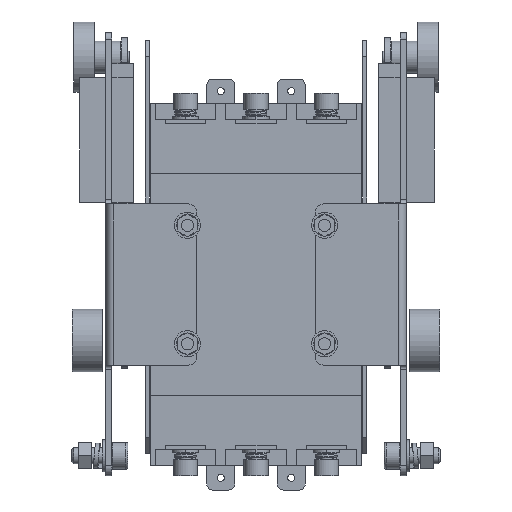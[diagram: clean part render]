
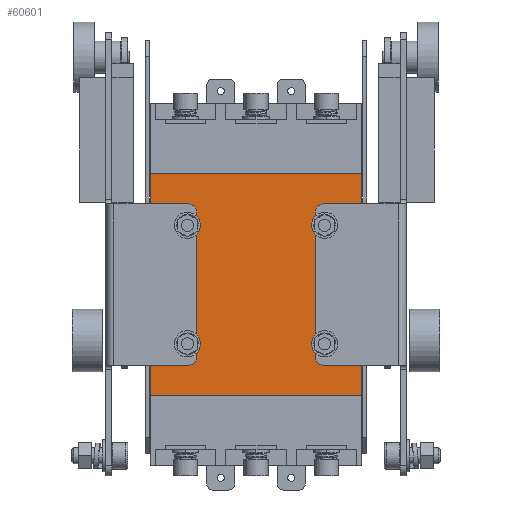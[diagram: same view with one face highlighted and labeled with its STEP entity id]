
A CAD part, front view. The second image highlights one B-rep face of the part: STEP entity #60601.
In plain terms, the highlighted planar face has unit normal (0, -1, 0).
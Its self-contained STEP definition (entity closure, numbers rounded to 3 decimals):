
#116 = DIRECTION ( 'NONE',  ( 0., 0., -1. ) ) ;
#2497 = CARTESIAN_POINT ( 'NONE',  ( 1581.358, -176.876, -95. ) ) ;
#2597 = CARTESIAN_POINT ( 'NONE',  ( 1602.291, -176.876, -120.6 ) ) ;
#2671 = EDGE_CURVE ( 'NONE', #16704, #34918, #56731, .T. ) ;
#2679 = DIRECTION ( 'NONE',  ( 0., 0., -1. ) ) ;
#2852 = ORIENTED_EDGE ( 'NONE', *, *, #41871, .F. ) ;
#2880 = CARTESIAN_POINT ( 'NONE',  ( 1581.358, -176.876, -36.2 ) ) ;
#3310 = CIRCLE ( 'NONE', #8777, 2.5 ) ;
#4572 = ORIENTED_EDGE ( 'NONE', *, *, #46490, .F. ) ;
#4886 = CARTESIAN_POINT ( 'NONE',  ( 1515.723, -176.876, -95. ) ) ;
#4944 = ORIENTED_EDGE ( 'NONE', *, *, #9178, .F. ) ;
#5356 = ORIENTED_EDGE ( 'NONE', *, *, #61834, .T. ) ;
#5688 = EDGE_CURVE ( 'NONE', #30128, #26739, #15603, .T. ) ;
#6537 = CARTESIAN_POINT ( 'NONE',  ( 1583.858, -176.876, -36.2 ) ) ;
#8777 = AXIS2_PLACEMENT_3D ( 'NONE', #30062, #51920, #57021 ) ;
#9178 = EDGE_CURVE ( 'NONE', #58772, #41359, #41980, .T. ) ;
#9599 = LINE ( 'NONE', #20220, #41303 ) ;
#9673 = CARTESIAN_POINT ( 'NONE',  ( 1586.358, -176.876, -95. ) ) ;
#9784 = CARTESIAN_POINT ( 'NONE',  ( 1586.358, -176.876, -36.2 ) ) ;
#10390 = EDGE_LOOP ( 'NONE', ( #30092, #11612 ) ) ;
#11005 = CARTESIAN_POINT ( 'NONE',  ( 1497.291, -176.876, -10.6 ) ) ;
#11426 = ORIENTED_EDGE ( 'NONE', *, *, #56560, .T. ) ;
#11612 = ORIENTED_EDGE ( 'NONE', *, *, #2671, .F. ) ;
#12242 = CARTESIAN_POINT ( 'NONE',  ( 1583.858, -176.876, -36.2 ) ) ;
#12433 = ORIENTED_EDGE ( 'NONE', *, *, #39793, .T. ) ;
#12513 = CARTESIAN_POINT ( 'NONE',  ( 1518.223, -176.876, -95. ) ) ;
#13100 = CARTESIAN_POINT ( 'NONE',  ( 1497.291, -176.876, 24.4 ) ) ;
#14206 = FACE_OUTER_BOUND ( 'NONE', #18425, .T. ) ;
#14898 = VERTEX_POINT ( 'NONE', #43117 ) ;
#15603 = CIRCLE ( 'NONE', #41786, 2.5 ) ;
#16176 = CARTESIAN_POINT ( 'NONE',  ( 1602.291, -176.876, -10.6 ) ) ;
#16472 = DIRECTION ( 'NONE',  ( 0., 0., -1. ) ) ;
#16704 = VERTEX_POINT ( 'NONE', #2880 ) ;
#16770 = VERTEX_POINT ( 'NONE', #16176 ) ;
#17014 = CARTESIAN_POINT ( 'NONE',  ( 1515.723, -176.876, -95. ) ) ;
#17509 = AXIS2_PLACEMENT_3D ( 'NONE', #6537, #63281, #16472 ) ;
#18245 = LINE ( 'NONE', #13100, #42538 ) ;
#18425 = EDGE_LOOP ( 'NONE', ( #5356, #12433, #11426, #28029 ) ) ;
#18973 = DIRECTION ( 'NONE',  ( 0., -1., 0. ) ) ;
#19060 = AXIS2_PLACEMENT_3D ( 'NONE', #4886, #42453, #116 ) ;
#19684 = PLANE ( 'NONE',  #36264 ) ;
#20018 = FACE_BOUND ( 'NONE', #35481, .T. ) ;
#20220 = CARTESIAN_POINT ( 'NONE',  ( 1602.291, -176.876, -155.6 ) ) ;
#20866 = VERTEX_POINT ( 'NONE', #54844 ) ;
#22629 = DIRECTION ( 'NONE',  ( 0., 0., -1. ) ) ;
#23533 = DIRECTION ( 'NONE',  ( 1., 0., 0. ) ) ;
#24570 = VERTEX_POINT ( 'NONE', #11005 ) ;
#26596 = EDGE_LOOP ( 'NONE', ( #4572, #37206 ) ) ;
#26739 = VERTEX_POINT ( 'NONE', #9673 ) ;
#26789 = VERTEX_POINT ( 'NONE', #57827 ) ;
#28029 = ORIENTED_EDGE ( 'NONE', *, *, #62857, .T. ) ;
#30062 = CARTESIAN_POINT ( 'NONE',  ( 1515.723, -176.876, -36.2 ) ) ;
#30092 = ORIENTED_EDGE ( 'NONE', *, *, #51561, .F. ) ;
#30128 = VERTEX_POINT ( 'NONE', #2497 ) ;
#31736 = DIRECTION ( 'NONE',  ( 0., -1., 0. ) ) ;
#32278 = CIRCLE ( 'NONE', #54112, 2.5 ) ;
#32454 = AXIS2_PLACEMENT_3D ( 'NONE', #63333, #47930, #22629 ) ;
#32613 = DIRECTION ( 'NONE',  ( 0., 0., -1. ) ) ;
#33948 = DIRECTION ( 'NONE',  ( 0., 0., -1. ) ) ;
#34918 = VERTEX_POINT ( 'NONE', #9784 ) ;
#35048 = CARTESIAN_POINT ( 'NONE',  ( 0., -176.876, 0. ) ) ;
#35481 = EDGE_LOOP ( 'NONE', ( #4944, #52585 ) ) ;
#35713 = DIRECTION ( 'NONE',  ( 0., 0., -1. ) ) ;
#35989 = VECTOR ( 'NONE', #61928, 1000. ) ;
#36264 = AXIS2_PLACEMENT_3D ( 'NONE', #35048, #60662, #35713 ) ;
#37206 = ORIENTED_EDGE ( 'NONE', *, *, #5688, .F. ) ;
#38808 = CARTESIAN_POINT ( 'NONE',  ( 1583.858, -176.876, -95. ) ) ;
#39793 = EDGE_CURVE ( 'NONE', #14898, #48644, #44714, .T. ) ;
#41303 = VECTOR ( 'NONE', #67332, 1000. ) ;
#41359 = VERTEX_POINT ( 'NONE', #64884 ) ;
#41786 = AXIS2_PLACEMENT_3D ( 'NONE', #38808, #18973, #45273 ) ;
#41871 = EDGE_CURVE ( 'NONE', #26789, #20866, #52371, .T. ) ;
#41980 = CIRCLE ( 'NONE', #19060, 2.5 ) ;
#42453 = DIRECTION ( 'NONE',  ( 0., -1., 0. ) ) ;
#42538 = VECTOR ( 'NONE', #33948, 1000. ) ;
#43117 = CARTESIAN_POINT ( 'NONE',  ( 1497.291, -176.876, -120.6 ) ) ;
#44714 = LINE ( 'NONE', #55966, #46157 ) ;
#45273 = DIRECTION ( 'NONE',  ( 0., 0., -1. ) ) ;
#45881 = LINE ( 'NONE', #51331, #35989 ) ;
#46157 = VECTOR ( 'NONE', #23533, 1000. ) ;
#46490 = EDGE_CURVE ( 'NONE', #26739, #30128, #55358, .T. ) ;
#47930 = DIRECTION ( 'NONE',  ( 0., -1., 0. ) ) ;
#48461 = DIRECTION ( 'NONE',  ( 0., -1., 0. ) ) ;
#48644 = VERTEX_POINT ( 'NONE', #2597 ) ;
#49124 = EDGE_LOOP ( 'NONE', ( #62837, #2852 ) ) ;
#51010 = CIRCLE ( 'NONE', #66359, 2.5 ) ;
#51088 = FACE_BOUND ( 'NONE', #26596, .T. ) ;
#51331 = CARTESIAN_POINT ( 'NONE',  ( 0., -176.876, -10.6 ) ) ;
#51561 = EDGE_CURVE ( 'NONE', #34918, #16704, #32278, .T. ) ;
#51920 = DIRECTION ( 'NONE',  ( 0., -1., 0. ) ) ;
#52371 = CIRCLE ( 'NONE', #53481, 2.5 ) ;
#52585 = ORIENTED_EDGE ( 'NONE', *, *, #55883, .F. ) ;
#53120 = CARTESIAN_POINT ( 'NONE',  ( 1515.723, -176.876, -36.2 ) ) ;
#53481 = AXIS2_PLACEMENT_3D ( 'NONE', #53120, #58886, #32613 ) ;
#54112 = AXIS2_PLACEMENT_3D ( 'NONE', #12242, #48461, #2679 ) ;
#54844 = CARTESIAN_POINT ( 'NONE',  ( 1518.223, -176.876, -36.2 ) ) ;
#55358 = CIRCLE ( 'NONE', #32454, 2.5 ) ;
#55883 = EDGE_CURVE ( 'NONE', #41359, #58772, #51010, .T. ) ;
#55966 = CARTESIAN_POINT ( 'NONE',  ( 0., -176.876, -120.6 ) ) ;
#56560 = EDGE_CURVE ( 'NONE', #48644, #16770, #9599, .T. ) ;
#56731 = CIRCLE ( 'NONE', #17509, 2.5 ) ;
#57021 = DIRECTION ( 'NONE',  ( 0., 0., -1. ) ) ;
#57827 = CARTESIAN_POINT ( 'NONE',  ( 1513.223, -176.876, -36.2 ) ) ;
#58329 = EDGE_CURVE ( 'NONE', #20866, #26789, #3310, .T. ) ;
#58772 = VERTEX_POINT ( 'NONE', #12513 ) ;
#58886 = DIRECTION ( 'NONE',  ( 0., -1., 0. ) ) ;
#60601 = ADVANCED_FACE ( 'NONE', ( #66801, #20018, #51088, #67141, #14206 ), #19684, .T. ) ;
#60662 = DIRECTION ( 'NONE',  ( 0., -1., 0. ) ) ;
#61834 = EDGE_CURVE ( 'NONE', #24570, #14898, #18245, .T. ) ;
#61928 = DIRECTION ( 'NONE',  ( -1., 0., 0. ) ) ;
#62837 = ORIENTED_EDGE ( 'NONE', *, *, #58329, .F. ) ;
#62857 = EDGE_CURVE ( 'NONE', #16770, #24570, #45881, .T. ) ;
#63151 = DIRECTION ( 'NONE',  ( 0., 0., -1. ) ) ;
#63281 = DIRECTION ( 'NONE',  ( 0., -1., 0. ) ) ;
#63333 = CARTESIAN_POINT ( 'NONE',  ( 1583.858, -176.876, -95. ) ) ;
#64884 = CARTESIAN_POINT ( 'NONE',  ( 1513.223, -176.876, -95. ) ) ;
#66359 = AXIS2_PLACEMENT_3D ( 'NONE', #17014, #31736, #63151 ) ;
#66801 = FACE_BOUND ( 'NONE', #49124, .T. ) ;
#67141 = FACE_BOUND ( 'NONE', #10390, .T. ) ;
#67332 = DIRECTION ( 'NONE',  ( 0., 0., 1. ) ) ;
